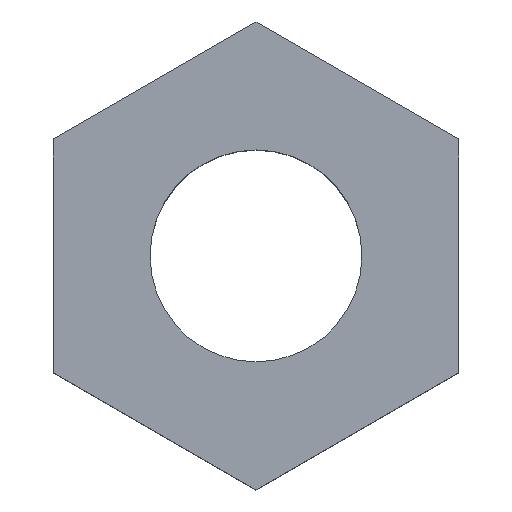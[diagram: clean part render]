
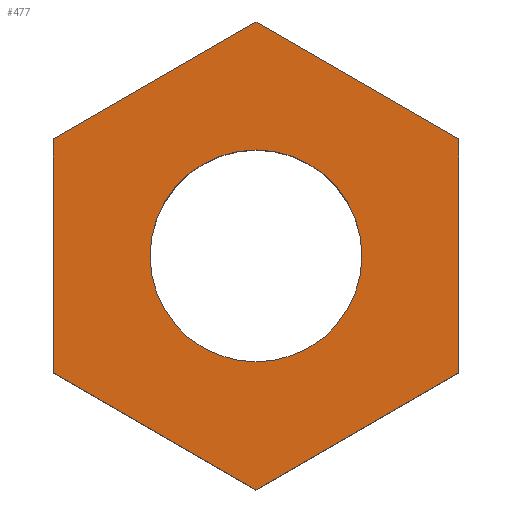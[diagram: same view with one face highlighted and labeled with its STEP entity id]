
A CAD part, top view. The second image highlights one B-rep face of the part: STEP entity #477.
In plain terms, the highlighted planar face has unit normal (0, 0, 1).
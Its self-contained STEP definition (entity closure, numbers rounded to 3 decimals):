
#1 = ORIENTED_EDGE ( 'NONE', *, *, #258, .T. ) ;
#6 = CARTESIAN_POINT ( 'NONE',  ( 6.5, -3.753, 0. ) ) ;
#11 = DIRECTION ( 'NONE',  ( -1., 0., 0. ) ) ;
#13 = DIRECTION ( 'NONE',  ( 0.866, 0.5, 0. ) ) ;
#16 = ORIENTED_EDGE ( 'NONE', *, *, #379, .T. ) ;
#31 = LINE ( 'NONE', #104, #77 ) ;
#33 = EDGE_CURVE ( 'NONE', #300, #329, #76, .T. ) ;
#36 = LINE ( 'NONE', #414, #86 ) ;
#46 = CARTESIAN_POINT ( 'NONE',  ( -6.5, 3.753, 0. ) ) ;
#47 = DIRECTION ( 'NONE',  ( -1., 0., 0. ) ) ;
#53 = LINE ( 'NONE', #202, #419 ) ;
#58 = LINE ( 'NONE', #178, #172 ) ;
#68 = DIRECTION ( 'NONE',  ( 0.866, -0.5, 0. ) ) ;
#73 = VERTEX_POINT ( 'NONE', #83 ) ;
#75 = VERTEX_POINT ( 'NONE', #46 ) ;
#76 = CIRCLE ( 'NONE', #154, 3.4 ) ;
#77 = VECTOR ( 'NONE', #399, 1000. ) ;
#83 = CARTESIAN_POINT ( 'NONE',  ( 0., -7.506, 0. ) ) ;
#85 = DIRECTION ( 'NONE',  ( 0., 0., 1. ) ) ;
#86 = VECTOR ( 'NONE', #180, 1000. ) ;
#92 = ORIENTED_EDGE ( 'NONE', *, *, #33, .T. ) ;
#94 = DIRECTION ( 'NONE',  ( -0.866, -0.5, 0. ) ) ;
#99 = ORIENTED_EDGE ( 'NONE', *, *, #400, .T. ) ;
#103 = VERTEX_POINT ( 'NONE', #6 ) ;
#104 = CARTESIAN_POINT ( 'NONE',  ( -6.5, 0., 0. ) ) ;
#107 = EDGE_LOOP ( 'NONE', ( #153, #1, #99, #138, #209, #16 ) ) ;
#113 = ORIENTED_EDGE ( 'NONE', *, *, #146, .T. ) ;
#138 = ORIENTED_EDGE ( 'NONE', *, *, #213, .T. ) ;
#146 = EDGE_CURVE ( 'NONE', #329, #300, #261, .T. ) ;
#153 = ORIENTED_EDGE ( 'NONE', *, *, #371, .T. ) ;
#154 = AXIS2_PLACEMENT_3D ( 'NONE', #364, #415, #11 ) ;
#159 = PLANE ( 'NONE',  #297 ) ;
#167 = CARTESIAN_POINT ( 'NONE',  ( -6.5, -3.753, 0. ) ) ;
#172 = VECTOR ( 'NONE', #231, 1000. ) ;
#178 = CARTESIAN_POINT ( 'NONE',  ( 6.49, 3.758, 0. ) ) ;
#180 = DIRECTION ( 'NONE',  ( 0., 1., 0. ) ) ;
#181 = VECTOR ( 'NONE', #94, 1000. ) ;
#190 = EDGE_LOOP ( 'NONE', ( #92, #113 ) ) ;
#191 = VERTEX_POINT ( 'NONE', #167 ) ;
#193 = CARTESIAN_POINT ( 'NONE',  ( 0., 0., 0. ) ) ;
#202 = CARTESIAN_POINT ( 'NONE',  ( 3.25, -5.629, 0. ) ) ;
#209 = ORIENTED_EDGE ( 'NONE', *, *, #291, .T. ) ;
#213 = EDGE_CURVE ( 'NONE', #302, #436, #58, .T. ) ;
#231 = DIRECTION ( 'NONE',  ( -0.866, 0.5, 0. ) ) ;
#258 = EDGE_CURVE ( 'NONE', #73, #103, #53, .T. ) ;
#261 = CIRCLE ( 'NONE', #454, 3.4 ) ;
#275 = DIRECTION ( 'NONE',  ( 1., 0., 0. ) ) ;
#287 = CARTESIAN_POINT ( 'NONE',  ( -3.25, -5.629, 0. ) ) ;
#291 = EDGE_CURVE ( 'NONE', #436, #75, #429, .T. ) ;
#297 = AXIS2_PLACEMENT_3D ( 'NONE', #387, #85, #275 ) ;
#300 = VERTEX_POINT ( 'NONE', #470 ) ;
#302 = VERTEX_POINT ( 'NONE', #310 ) ;
#309 = FACE_OUTER_BOUND ( 'NONE', #107, .T. ) ;
#310 = CARTESIAN_POINT ( 'NONE',  ( 6.5, 3.753, 0. ) ) ;
#314 = VECTOR ( 'NONE', #68, 1000. ) ;
#329 = VERTEX_POINT ( 'NONE', #404 ) ;
#346 = FACE_BOUND ( 'NONE', #190, .T. ) ;
#364 = CARTESIAN_POINT ( 'NONE',  ( 0., 0., 0. ) ) ;
#371 = EDGE_CURVE ( 'NONE', #191, #73, #396, .T. ) ;
#379 = EDGE_CURVE ( 'NONE', #75, #191, #31, .T. ) ;
#383 = CARTESIAN_POINT ( 'NONE',  ( -3.25, 5.629, 0. ) ) ;
#387 = CARTESIAN_POINT ( 'NONE',  ( 0., 0., 0. ) ) ;
#396 = LINE ( 'NONE', #287, #314 ) ;
#399 = DIRECTION ( 'NONE',  ( 0., -1., 0. ) ) ;
#400 = EDGE_CURVE ( 'NONE', #103, #302, #36, .T. ) ;
#404 = CARTESIAN_POINT ( 'NONE',  ( 3.4, 0., 0. ) ) ;
#414 = CARTESIAN_POINT ( 'NONE',  ( 6.5, 0., 0. ) ) ;
#415 = DIRECTION ( 'NONE',  ( 0., 0., -1. ) ) ;
#419 = VECTOR ( 'NONE', #13, 1000. ) ;
#421 = DIRECTION ( 'NONE',  ( 0., 0., -1. ) ) ;
#429 = LINE ( 'NONE', #383, #181 ) ;
#436 = VERTEX_POINT ( 'NONE', #487 ) ;
#454 = AXIS2_PLACEMENT_3D ( 'NONE', #193, #421, #47 ) ;
#470 = CARTESIAN_POINT ( 'NONE',  ( -3.4, 0., 0. ) ) ;
#477 = ADVANCED_FACE ( 'NONE', ( #346, #309 ), #159, .T. ) ;
#487 = CARTESIAN_POINT ( 'NONE',  ( 0., 7.506, 0. ) ) ;
